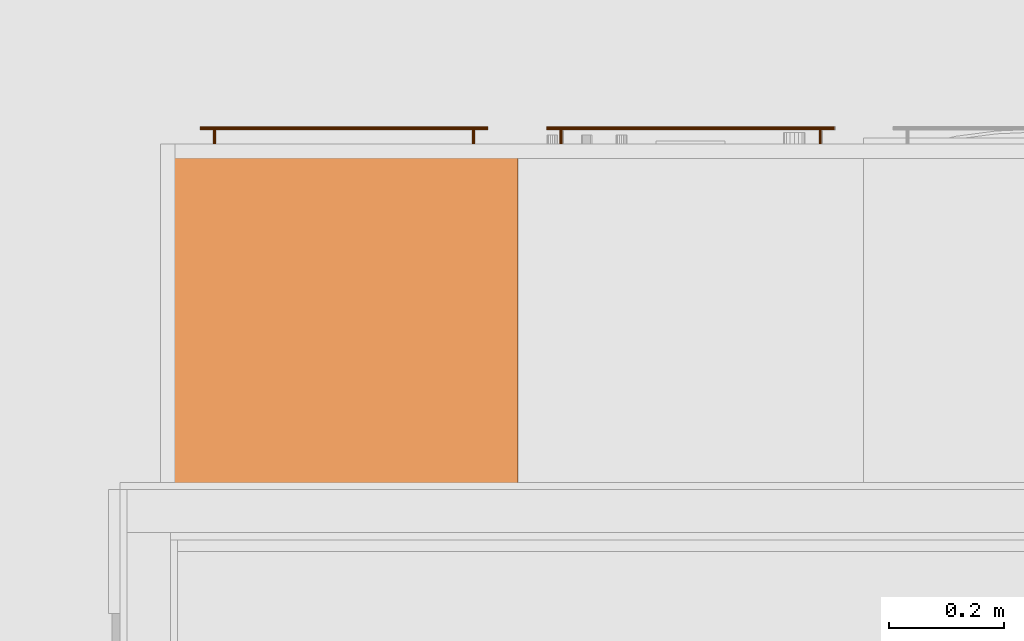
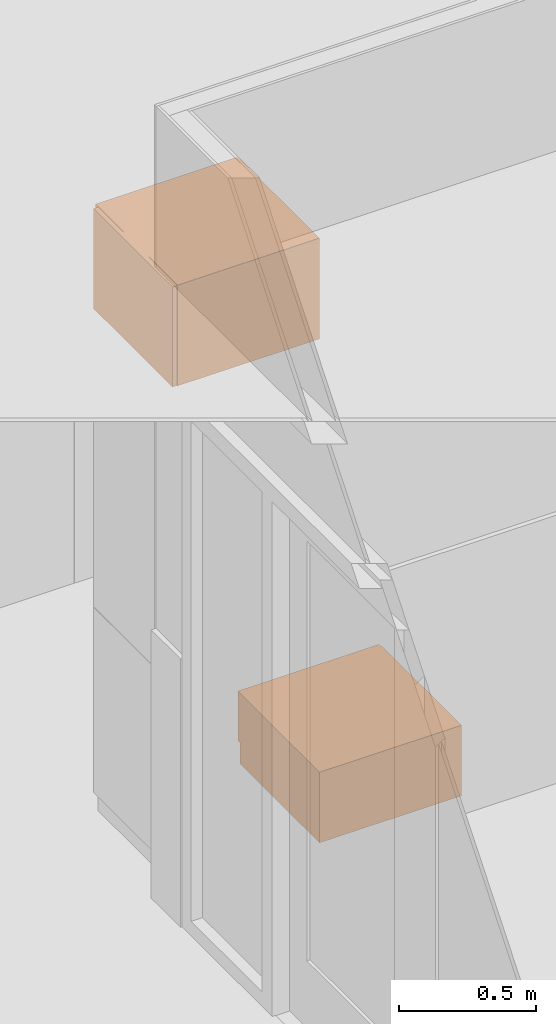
# One storey, part 164 of 167: 2 proxies.
"""IFC2X3 building model written with IfcOpenShell, lengths in millimetres."""

import ifcopenshell
import ifcopenshell.guid

model = None  # the IFC model being written
_history = None  # IfcOwnerHistory: only IFC2X3 demands one
_inside = {}  # id of a spatial element -> (the spatial element, [elements in it])
_under = {}  # id of a project, library or spatial element -> (it, [spatial elements below it])
_declared = {}  # id of a project -> (the project, [libraries it declares])
_typed = {}  # id of a type object -> (the type object, [elements of that type])
_made_of = {}  # id of a material, layer set ... -> (it, [elements and type objects made of it])


def new_model(schema):
    """Start an empty IFC model of exactly this schema.

    Asked for "IFC4X3", IfcOpenShell would pick the latest addendum, in which some entities
    have other attributes; the version numbers below select the first issue.
    IFC2X3 requires an IfcOwnerHistory on every rooted entity: one is made here for all.
    """
    global model, _history
    if schema == "IFC4X3":
        model = ifcopenshell.file(schema_version=(4, 3, 0, 0))
    else:
        model = ifcopenshell.file(schema=schema)
    _inside.clear()
    _under.clear()
    _declared.clear()
    _typed.clear()
    _made_of.clear()
    _history = None
    if model.schema == "IFC2X3":
        org = make("IfcOrganization", Name="unknown")
        user = make(
            "IfcPersonAndOrganization",
            ThePerson=make("IfcPerson", FamilyName="unknown"),
            TheOrganization=org,
        )
        app = make(
            "IfcApplication",
            ApplicationDeveloper=org,
            Version="unknown",
            ApplicationFullName="unknown",
            ApplicationIdentifier="unknown",
        )
        _history = make(
            "IfcOwnerHistory",
            OwningUser=user,
            OwningApplication=app,
            ChangeAction="ADDED",
            CreationDate=0,
        )
    return model


def make(cls, **values):
    """One entity of the class cls with the attributes given. An attribute that is None is left unset."""
    return model.create_entity(
        cls, **{name: value for name, value in values.items() if value is not None}
    )


def entity(cls, *values):
    """Any entity or typed value of the class cls, its attributes in the order of the schema. None: left unset."""
    e = model.create_entity(cls)
    for i, value in enumerate(values):
        if value is not None:
            e[i] = value
    return e


def rooted(cls, **values):
    """An entity with a GlobalId (a new one), such as an element, a storey or a relation."""
    return make(cls, GlobalId=ifcopenshell.guid.new(), OwnerHistory=_history, **values)


def si_unit(unit_type, name, prefix=None):
    """IfcSIUnit, for example si_unit("LENGTHUNIT", "METRE", prefix="MILLI")."""
    return make("IfcSIUnit", UnitType=unit_type, Prefix=prefix, Name=name)


def converted_unit(unit_type, name, factor, base, dimensions=None, offset=None):
    """IfcConversionBasedUnit, such as the inch: factor (a typed value) times the base unit."""
    return make(
        "IfcConversionBasedUnit"
        if offset is None
        else "IfcConversionBasedUnitWithOffset",
        ConversionOffset=offset,
        Dimensions=None
        if dimensions is None
        else entity("IfcDimensionalExponents", *dimensions),
        UnitType=unit_type,
        Name=name,
        ConversionFactor=make(
            "IfcMeasureWithUnit", ValueComponent=factor, UnitComponent=base
        ),
    )


def derived_unit(unit_type, elements):
    """IfcDerivedUnit: a product of units, each with its exponent."""
    return make(
        "IfcDerivedUnit",
        Elements=[
            make("IfcDerivedUnitElement", Unit=unit, Exponent=power)
            for unit, power in elements
        ],
        UnitType=unit_type,
    )


def money_unit(currency):
    """IfcMonetaryUnit."""
    return make("IfcMonetaryUnit", Currency=currency)


def assignment(units):
    """IfcUnitAssignment: the units of a project."""
    return None if units is None else make("IfcUnitAssignment", Units=units)


def point(xyz):
    """IfcCartesianPoint."""
    return None if xyz is None else make("IfcCartesianPoint", Coordinates=xyz)


def direction(xyz):
    """IfcDirection."""
    return None if xyz is None else make("IfcDirection", DirectionRatios=xyz)


def frame(location, z_axis=None, x_axis=None):
    """IfcAxis2Placement3D, a coordinate frame: its origin and axes. An axis left out is left unset."""
    return make(
        "IfcAxis2Placement3D",
        Location=point(location),
        Axis=direction(z_axis),
        RefDirection=direction(x_axis),
    )


def origin_with_axes():
    """The frame at (0, 0, 0) with the z axis (0, 0, 1) and the x axis (1, 0, 0) written out."""
    return frame((0.0, 0.0, 0.0), z_axis=(0.0, 0.0, 1.0), x_axis=(1.0, 0.0, 0.0))


def place(relative_to, where):
    """IfcLocalPlacement: puts the frame where relative to a parent placement (None: the world)."""
    return make(
        "IfcLocalPlacement", PlacementRelTo=relative_to, RelativePlacement=where
    )


def context(
    kind, dimensions, precision=None, world=None, true_north=None, identifier=None
):
    """IfcGeometricRepresentationContext, for example the 3D "Model" context."""
    return make(
        "IfcGeometricRepresentationContext",
        ContextIdentifier=identifier,
        ContextType=kind,
        CoordinateSpaceDimension=dimensions,
        Precision=precision,
        WorldCoordinateSystem=world,
        TrueNorth=true_north,
    )


def subcontext(parent, identifier, kind, view, scale=None):
    """IfcGeometricRepresentationSubContext, for example "Body" below "Model"."""
    return make(
        "IfcGeometricRepresentationSubContext",
        ContextIdentifier=identifier,
        ContextType=kind,
        ParentContext=parent,
        TargetScale=scale,
        TargetView=view,
    )


def project(units=None, contexts=None):
    """IfcProject with its units and contexts."""
    return rooted(
        "IfcProject",
        Name="project",
        RepresentationContexts=contexts,
        UnitsInContext=assignment(units),
    )


def spatial(cls, under=None, at=None, **own):
    """A site, building, storey or space (cls), placed at a placement, below another one or the project."""
    s = rooted(cls, ObjectPlacement=at, **own)
    if under is not None:
        _under.setdefault(under.id(), (under, []))[1].append(s)
    return s


def faces_of(points, faces, orient=None, outer=None):
    """IfcFace entities. A face is a list of loops; a loop is a list of indices into points, from 0.

    orient and outer hold one flag for each loop. By default every Orientation is true, the
    first loop of a face is its IfcFaceOuterBound and the others are IfcFaceBound.
    """
    made = []
    for i, loops in enumerate(faces):
        bounds = []
        for j, loop in enumerate(loops):
            is_outer = j == 0 if outer is None else outer[i][j]
            bounds.append(
                make(
                    "IfcFaceOuterBound" if is_outer else "IfcFaceBound",
                    Bound=make("IfcPolyLoop", Polygon=[points[k] for k in loop]),
                    Orientation=True if orient is None else orient[i][j],
                )
            )
        made.append(make("IfcFace", Bounds=bounds))
    return made


def open_shell(faces, orient=None, outer=None):
    """The faces of one IfcOpenShell. surface_model builds it on its shared points."""
    return ("IfcOpenShell", faces, orient, outer)


def faceted_brep(points, faces, orient=None, outer=None, voids=None):
    """IfcFacetedBrep: a solid bounded by flat faces; with voids (closed shells), ...WithVoids."""
    shared = [point(p) for p in points]
    hull = make("IfcClosedShell", CfsFaces=faces_of(shared, faces, orient, outer))
    if voids is None:
        return make("IfcFacetedBrep", Outer=hull)
    return make(
        "IfcFacetedBrepWithVoids",
        Outer=hull,
        Voids=[
            make(cls, CfsFaces=faces_of(shared, fs, o, b)) for cls, fs, o, b in voids
        ],
    )


def surface_model(cls, points, shells):
    """IfcFaceBasedSurfaceModel or IfcShellBasedSurfaceModel (cls): surfaces that need not close."""
    shared = [point(p) for p in points]
    made = [make(c, CfsFaces=faces_of(shared, fs, o, b)) for c, fs, o, b in shells]
    if cls == "IfcFaceBasedSurfaceModel":
        return make(cls, FbsmFaces=made)
    return make(cls, SbsmBoundary=made)


def shape(context_of_items, identifier, shape_type, items):
    """IfcShapeRepresentation: the items that make up one representation, for example the "Body"."""
    return make(
        "IfcShapeRepresentation",
        ContextOfItems=context_of_items,
        RepresentationIdentifier=identifier,
        RepresentationType=shape_type,
        Items=items,
    )


def made_of(thing, what):
    """Note that an element or type object is made of a material, layer set ...; save() writes the relation."""
    if what is not None:
        _made_of.setdefault(what.id(), (what, []))[1].append(thing)
    return thing


def type_object(cls, material=None, **own):
    """A type object (cls), such as IfcWallType, which elements share."""
    return made_of(rooted(cls, **own), material)


def element(
    cls,
    number,
    at=None,
    inside=None,
    cuts=None,
    type_object=None,
    material=None,
    context=None,
    identifier="Body",
    shape_type=None,
    held_by="IfcProductDefinitionShape",
    body=None,
    shapes=None,
    **own,
):
    """One element of the class cls, such as IfcWall. Its Tag is "e" and its number.

    at: its placement. inside: the storey or other place that contains it. cuts: it is an
    opening in that element (IfcRelVoidsElement). A single representation is given by context,
    identifier, shape_type and body (its items); several are given by shapes. held_by: the class
    of the entity that holds the representations. save() writes the other relations.
    """
    e = rooted(cls, Tag="e%d" % number, ObjectPlacement=at, **own)
    if body is not None:
        shapes = [shape(context, identifier, shape_type, body)]
    if shapes is not None:
        e.Representation = make(held_by, Representations=shapes)
    if inside is not None:
        _inside.setdefault(inside.id(), (inside, []))[1].append(e)
    if cuts is not None:
        rooted(
            "IfcRelVoidsElement", RelatingBuildingElement=cuts, RelatedOpeningElement=e
        )
    if type_object is not None:
        _typed.setdefault(type_object.id(), (type_object, []))[1].append(e)
    return made_of(e, material)


def aggregate(whole, parts):
    """IfcRelAggregates: a whole, such as a stair, and the parts it consists of."""
    return rooted("IfcRelAggregates", RelatingObject=whole, RelatedObjects=parts)


def save(model, path):
    """Write the relations noted so far, then the file.

    IfcRelAggregates (storeys below a building ...), IfcRelContainedInSpatialStructure (elements
    in a storey), IfcRelDefinesByType, IfcRelAssociatesMaterial and IfcRelDeclares: one each for
    every whole, place, type object, material and project.
    """
    for whole, parts in _under.values():
        aggregate(whole, parts)
    for where, things in _inside.values():
        rooted(
            "IfcRelContainedInSpatialStructure",
            RelatedElements=things,
            RelatingStructure=where,
        )
    for kind, things in _typed.values():
        rooted("IfcRelDefinesByType", RelatedObjects=things, RelatingType=kind)
    for what, things in _made_of.values():
        rooted("IfcRelAssociatesMaterial", RelatedObjects=things, RelatingMaterial=what)
    for by, libraries in _declared.values():
        rooted("IfcRelDeclares", RelatingContext=by, RelatedDefinitions=libraries)
    model.write(path)


model = new_model("IFC2X3")

# Units and contexts
model_context = context("Model", 3, precision=0.01, world=origin_with_axes(), true_north=direction((0.0, 1.0)))
plan_context = context("Plan", 3, precision=0.01, world=origin_with_axes(), true_north=direction((0.0, 1.0)))
body_context = subcontext(model_context, "Body", "Model", "MODEL_VIEW")
ifc_project = project(units=[si_unit("LENGTHUNIT", "METRE", prefix="MILLI"), si_unit("AREAUNIT", "SQUARE_METRE"), si_unit("VOLUMEUNIT", "CUBIC_METRE"), converted_unit("PLANEANGLEUNIT", "DEGREE", entity("IfcPlaneAngleMeasure", 0.0174532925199), si_unit("PLANEANGLEUNIT", "RADIAN"), dimensions=[0, 0, 0, 0, 0, 0, 0]), si_unit("SOLIDANGLEUNIT", "STERADIAN"), money_unit("EUR"), converted_unit("TIMEUNIT", "Year", entity("IfcTimeMeasure", 31556926.0), si_unit("TIMEUNIT", "SECOND"), dimensions=[0, 0, 1, 0, 0, 0, 0]), si_unit("MASSUNIT", "GRAM", prefix="KILO"), si_unit("THERMODYNAMICTEMPERATUREUNIT", "DEGREE_CELSIUS"), si_unit("LUMINOUSINTENSITYUNIT", "LUMEN"), si_unit("ENERGYUNIT", "JOULE", prefix="MEGA"), derived_unit("THERMALCONDUCTANCEUNIT", [(si_unit("POWERUNIT", "WATT"), 1), (si_unit("LENGTHUNIT", "METRE"), -1), (si_unit("THERMODYNAMICTEMPERATUREUNIT", "KELVIN"), -1)]), derived_unit("SPECIFICHEATCAPACITYUNIT", [(si_unit("ENERGYUNIT", "JOULE"), 1), (si_unit("MASSUNIT", "GRAM", prefix="KILO"), -1), (si_unit("THERMODYNAMICTEMPERATUREUNIT", "KELVIN"), -1)]), derived_unit("MASSDENSITYUNIT", [(si_unit("MASSUNIT", "GRAM", prefix="KILO"), 1), (si_unit("VOLUMEUNIT", "CUBIC_METRE"), -1)])], contexts=[model_context, plan_context])

# Site, building, storey
site_placement = place(None, origin_with_axes())
site = spatial("IfcSite", under=ifc_project, at=site_placement, Name="Site", CompositionType="ELEMENT")
building_placement = place(site_placement, origin_with_axes())
building = spatial("IfcBuilding", under=site, at=building_placement, Name="Naam gebouw", CompositionType="ELEMENT")
storey_placement = place(building_placement, origin_with_axes())
storey = spatial("IfcBuildingStorey", under=building, at=storey_placement, Name="Begane grond", CompositionType="ELEMENT", Elevation=0.0)

# Proxies
building_element_proxy_type_1 = type_object("IfcBuildingElementProxyType", Name="Kast basis multilade 24", PredefinedType="NOTDEFINED")
proxy_1_placement = place(storey_placement, frame((26625.0, 24566.7322881, 0.0), z_axis=(0.0, 0.0, 1.0), x_axis=(-1.0, 0.0, 0.0)))
element("IfcBuildingElementProxy", 1, at=proxy_1_placement, inside=storey, type_object=building_element_proxy_type_1, Name="__Object-x", context=body_context, shape_type="SurfaceModel", body=[
    faceted_brep([(1.5, 20.0, 91.5), (598.5, 20.0, 91.5), (598.5, 0.0, 91.5), (1.5, 0.0, 91.5), (1.5, 20.0, 313.5), (598.5, 20.0, 313.5), (598.5, 0.0, 313.5), (1.5, 0.0, 313.5)], [[[0, 1, 2, 3]], [[0, 4, 5, 1]], [[1, 5, 6, 2]], [[3, 2, 6, 7]], [[4, 0, 3, 7]], [[5, 4, 7, 6]]]),
    faceted_brep([(50.0, -28.1480502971, 247.228361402), (50.0, -29.1213203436, 247.878679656), (50.0, -29.7716385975, 248.851949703), (50.0, -30.0, 250.0), (50.0, -29.7716385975, 251.148050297), (50.0, -29.1213203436, 252.121320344), (50.0, -28.1480502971, 252.771638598), (50.0, -27.0, 253.0), (50.0, -25.8519497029, 252.771638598), (50.0, -24.8786796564, 252.121320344), (50.0, -24.2283614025, 251.148050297), (50.0, -24.0, 250.0), (50.0, -24.2283614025, 248.851949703), (50.0, -24.8786796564, 247.878679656), (50.0, -25.8519497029, 247.228361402), (50.0, -27.0, 247.0), (550.0, -28.1480502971, 247.228361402), (550.0, -29.1213203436, 247.878679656), (550.0, -29.7716385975, 248.851949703), (550.0, -30.0, 250.0), (550.0, -29.7716385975, 251.148050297), (550.0, -29.1213203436, 252.121320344), (550.0, -28.1480502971, 252.771638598), (550.0, -27.0, 253.0), (550.0, -25.8519497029, 252.771638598), (550.0, -24.8786796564, 252.121320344), (550.0, -24.2283614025, 251.148050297), (550.0, -24.0, 250.0), (550.0, -24.2283614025, 248.851949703), (550.0, -24.8786796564, 247.878679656), (550.0, -25.8519497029, 247.228361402), (550.0, -27.0, 247.0)], [[[0, 1, 2, 3, 4, 5, 6, 7, 8, 9, 10, 11, 12, 13, 14, 15]], [[1, 0, 16, 17]], [[2, 1, 17, 18]], [[3, 2, 18, 19]], [[4, 3, 19, 20]], [[5, 4, 20, 21]], [[6, 5, 21, 22]], [[7, 6, 22, 23]], [[8, 7, 23, 24]], [[9, 8, 24, 25]], [[10, 9, 25, 26]], [[11, 10, 26, 27]], [[12, 11, 27, 28]], [[13, 12, 28, 29]], [[14, 13, 29, 30]], [[15, 14, 30, 31]], [[0, 15, 31, 16]], [[16, 31, 30, 29, 28, 27, 26, 25, 24, 23, 22, 21, 20, 19, 18, 17]]]),
    surface_model("IfcShellBasedSurfaceModel", [(72.6903011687, -24.156637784, 249.043291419), (72.5, -24.0, 250.0), (72.5, 0.0, 250.0), (72.6903011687, 0.0, 249.043291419), (72.6903011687, -24.156637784, 250.956708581), (72.6903011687, 0.0, 250.956708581), (73.232233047, 0.0, 251.767766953), (74.0432914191, 0.0, 252.309698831), (75.0, 0.0, 252.5), (75.9567085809, 0.0, 252.309698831), (76.767766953, 0.0, 251.767766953), (77.3096988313, 0.0, 250.956708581), (77.5, 0.0, 250.0), (77.3096988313, 0.0, 249.043291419), (76.767766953, 0.0, 248.232233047), (75.9567085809, 0.0, 247.690301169), (75.0, 0.0, 247.5), (74.0432914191, 0.0, 247.690301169), (73.232233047, 0.0, 248.232233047), (73.232233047, -24.5761600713, 248.232233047), (73.232233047, -24.5761600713, 251.767766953), (74.0432914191, -25.0855049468, 252.309698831), (75.0, -25.3416876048, 252.5), (75.9567085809, -25.0855049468, 252.309698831), (76.767766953, -24.5761600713, 251.767766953), (77.3096988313, -24.156637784, 250.956708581), (77.5, -24.0, 250.0), (77.3096988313, -24.156637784, 249.043291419), (76.767766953, -24.5761600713, 248.232233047), (75.9567085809, -25.0855049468, 247.690301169), (75.0, -25.3416876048, 247.5), (74.0432914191, -25.0855049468, 247.690301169)], [open_shell([[[0, 1, 2, 3]], [[1, 4, 5, 2]], [[3, 2, 5, 6, 7, 8, 9, 10, 11, 12, 13, 14, 15, 16, 17, 18]], [[19, 0, 3, 18]], [[4, 20, 6, 5]], [[20, 21, 7, 6]], [[21, 22, 8, 7]], [[22, 23, 9, 8]], [[23, 24, 10, 9]], [[24, 25, 11, 10]], [[25, 26, 12, 11]], [[26, 27, 13, 12]], [[27, 28, 14, 13]], [[28, 29, 15, 14]], [[29, 30, 16, 15]], [[30, 31, 17, 16]], [[31, 19, 18, 17]]])]),
    surface_model("IfcShellBasedSurfaceModel", [(522.690301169, -24.156637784, 249.043291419), (522.5, -24.0, 250.0), (522.5, 0.0, 250.0), (522.690301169, 0.0, 249.043291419), (522.690301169, -24.156637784, 250.956708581), (522.690301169, 0.0, 250.956708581), (523.232233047, 0.0, 251.767766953), (524.043291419, 0.0, 252.309698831), (525.0, 0.0, 252.5), (525.956708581, 0.0, 252.309698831), (526.767766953, 0.0, 251.767766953), (527.309698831, 0.0, 250.956708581), (527.5, 0.0, 250.0), (527.309698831, 0.0, 249.043291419), (526.767766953, 0.0, 248.232233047), (525.956708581, 0.0, 247.690301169), (525.0, 0.0, 247.5), (524.043291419, 0.0, 247.690301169), (523.232233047, 0.0, 248.232233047), (523.232233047, -24.5761600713, 248.232233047), (523.232233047, -24.5761600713, 251.767766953), (524.043291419, -25.0855049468, 252.309698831), (525.0, -25.3416876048, 252.5), (525.956708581, -25.0855049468, 252.309698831), (526.767766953, -24.5761600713, 251.767766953), (527.309698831, -24.156637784, 250.956708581), (527.5, -24.0, 250.0), (527.309698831, -24.156637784, 249.043291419), (526.767766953, -24.5761600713, 248.232233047), (525.956708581, -25.0855049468, 247.690301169), (525.0, -25.3416876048, 247.5), (524.043291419, -25.0855049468, 247.690301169)], [open_shell([[[0, 1, 2, 3]], [[1, 4, 5, 2]], [[3, 2, 5, 6, 7, 8, 9, 10, 11, 12, 13, 14, 15, 16, 17, 18]], [[19, 0, 3, 18]], [[4, 20, 6, 5]], [[20, 21, 7, 6]], [[21, 22, 8, 7]], [[22, 23, 9, 8]], [[23, 24, 10, 9]], [[24, 25, 11, 10]], [[25, 26, 12, 11]], [[26, 27, 13, 12]], [[27, 28, 14, 13]], [[28, 29, 15, 14]], [[29, 30, 16, 15]], [[30, 31, 17, 16]], [[31, 19, 18, 17]]])]),
    faceted_brep([(0.0, 20.0, 0.0), (600.0, 20.0, 0.0), (600.0, 20.0, 90.0), (0.0, 20.0, 90.0), (0.0, 600.0, 0.0), (600.0, 600.0, 0.0), (600.0, 600.0, 90.0), (0.0, 600.0, 90.0)], [[[0, 1, 2, 3]], [[0, 4, 5, 1]], [[1, 5, 6, 2]], [[3, 2, 6, 7]], [[4, 0, 3, 7]], [[5, 4, 7, 6]]]),
    faceted_brep([(0.0, 20.0, 295.0), (20.0, 20.0, 295.0), (20.0, 20.0, 315.0), (0.0, 20.0, 315.0), (0.0, 600.0, 295.0), (20.0, 600.0, 295.0), (580.0, 600.0, 295.0), (600.0, 600.0, 295.0), (600.0, 20.0, 295.0), (580.0, 20.0, 295.0), (580.0, 20.0, 315.0), (600.0, 20.0, 315.0), (600.0, 600.0, 315.0), (580.0, 600.0, 315.0), (20.0, 600.0, 315.0), (0.0, 600.0, 315.0)], [[[0, 1, 2, 3]], [[0, 4, 5, 6, 7, 8, 9, 1]], [[1, 9, 10, 2]], [[3, 2, 10, 11, 12, 13, 14, 15]], [[4, 0, 3, 15]], [[5, 4, 15, 14]], [[6, 5, 14, 13]], [[7, 6, 13, 12]], [[8, 7, 12, 11]], [[9, 8, 11, 10]]]),
    faceted_brep([(0.0, 20.0, 90.0), (20.0, 20.0, 90.0), (20.0, 20.0, 110.0), (0.0, 20.0, 110.0), (0.0, 600.0, 90.0), (20.0, 600.0, 90.0), (580.0, 600.0, 90.0), (600.0, 600.0, 90.0), (600.0, 20.0, 90.0), (580.0, 20.0, 90.0), (580.0, 20.0, 110.0), (600.0, 20.0, 110.0), (600.0, 600.0, 110.0), (580.0, 600.0, 110.0), (20.0, 600.0, 110.0), (0.0, 600.0, 110.0)], [[[0, 1, 2, 3]], [[0, 4, 5, 6, 7, 8, 9, 1]], [[1, 9, 10, 2]], [[3, 2, 10, 11, 12, 13, 14, 15]], [[4, 0, 3, 15]], [[5, 4, 15, 14]], [[6, 5, 14, 13]], [[7, 6, 13, 12]], [[8, 7, 12, 11]], [[9, 8, 11, 10]]]),
    faceted_brep([(0.0, 20.0, 110.0), (20.0, 20.0, 110.0), (20.0, 20.0, 295.0), (0.0, 20.0, 295.0), (0.0, 600.0, 110.0), (600.0, 600.0, 110.0), (600.0, 20.0, 110.0), (580.0, 20.0, 110.0), (580.0, 580.0, 110.0), (20.0, 580.0, 110.0), (20.0, 580.0, 295.0), (580.0, 580.0, 295.0), (580.0, 20.0, 295.0), (600.0, 20.0, 295.0), (600.0, 600.0, 295.0), (0.0, 600.0, 295.0)], [[[0, 1, 2, 3]], [[0, 4, 5, 6, 7, 8, 9, 1]], [[1, 9, 10, 2]], [[3, 2, 10, 11, 12, 13, 14, 15]], [[4, 0, 3, 15]], [[5, 4, 15, 14]], [[6, 5, 14, 13]], [[7, 6, 13, 12]], [[8, 7, 12, 11]], [[9, 8, 11, 10]]]),
])
building_element_proxy_type_2 = type_object("IfcBuildingElementProxyType", Name="Kast wand 1D 24", PredefinedType="NOTDEFINED")
proxy_2_placement = place(storey_placement, frame((25405.0, 24566.7322881, 750.0), z_axis=(0.0, 0.0, 1.0), x_axis=(-1.0, 0.0, 0.0)))
element("IfcBuildingElementProxy", 2, at=proxy_2_placement, inside=storey, type_object=building_element_proxy_type_2, Name="__Object-x", context=body_context, shape_type="SurfaceModel", body=[
    faceted_brep([(-20.0, 20.0, 1930.0), (-20.0, 20.0, 1950.0), (-40.0, 20.0, 1950.0), (-40.0, 20.0, 1930.0), (-20.0, 600.0, 1930.0), (-20.0, 600.0, 1950.0), (-40.0, 600.0, 1950.0), (-600.0, 600.0, 1950.0), (-620.0, 600.0, 1950.0), (-620.0, 20.0, 1950.0), (-600.0, 20.0, 1950.0), (-600.0, 20.0, 1930.0), (-620.0, 20.0, 1930.0), (-620.0, 600.0, 1930.0), (-600.0, 600.0, 1930.0), (-40.0, 600.0, 1930.0)], [[[0, 1, 2, 3]], [[4, 5, 1, 0]], [[1, 5, 6, 7, 8, 9, 10, 2]], [[3, 2, 10, 11]], [[0, 3, 11, 12, 13, 14, 15, 4]], [[15, 6, 5, 4]], [[14, 7, 6, 15]], [[13, 8, 7, 14]], [[12, 9, 8, 13]], [[11, 10, 9, 12]]]),
    faceted_brep([(-20.0, 20.0, 1500.0), (-20.0, 20.0, 1520.0), (-40.0, 20.0, 1520.0), (-40.0, 20.0, 1500.0), (-20.0, 600.0, 1500.0), (-20.0, 600.0, 1520.0), (-40.0, 600.0, 1520.0), (-600.0, 600.0, 1520.0), (-620.0, 600.0, 1520.0), (-620.0, 20.0, 1520.0), (-600.0, 20.0, 1520.0), (-600.0, 20.0, 1500.0), (-620.0, 20.0, 1500.0), (-620.0, 600.0, 1500.0), (-600.0, 600.0, 1500.0), (-40.0, 600.0, 1500.0)], [[[0, 1, 2, 3]], [[4, 5, 1, 0]], [[1, 5, 6, 7, 8, 9, 10, 2]], [[3, 2, 10, 11]], [[0, 3, 11, 12, 13, 14, 15, 4]], [[15, 6, 5, 4]], [[14, 7, 6, 15]], [[13, 8, 7, 14]], [[12, 9, 8, 13]], [[11, 10, 9, 12]]]),
    faceted_brep([(-20.0, 20.0, 1520.0), (-20.0, 20.0, 1930.0), (-40.0, 20.0, 1930.0), (-40.0, 20.0, 1520.0), (-20.0, 600.0, 1520.0), (-20.0, 600.0, 1930.0), (-620.0, 600.0, 1930.0), (-620.0, 20.0, 1930.0), (-600.0, 20.0, 1930.0), (-600.0, 580.0, 1930.0), (-40.0, 580.0, 1930.0), (-40.0, 580.0, 1520.0), (-600.0, 580.0, 1520.0), (-600.0, 20.0, 1520.0), (-620.0, 20.0, 1520.0), (-620.0, 600.0, 1520.0)], [[[0, 1, 2, 3]], [[4, 5, 1, 0]], [[1, 5, 6, 7, 8, 9, 10, 2]], [[3, 2, 10, 11]], [[0, 3, 11, 12, 13, 14, 15, 4]], [[15, 6, 5, 4]], [[14, 7, 6, 15]], [[13, 8, 7, 14]], [[12, 9, 8, 13]], [[11, 10, 9, 12]]]),
    faceted_brep([(-600.0, 20.0, 1630.0), (-600.0, 20.0, 1650.0), (-600.0, 580.0, 1650.0), (-600.0, 580.0, 1630.0), (-40.0, 20.0, 1630.0), (-40.0, 20.0, 1650.0), (-40.0, 580.0, 1650.0), (-40.0, 580.0, 1630.0)], [[[0, 1, 2, 3]], [[4, 5, 1, 0]], [[1, 5, 6, 2]], [[3, 2, 6, 7]], [[0, 3, 7, 4]], [[7, 6, 5, 4]]]),
    faceted_brep([(-600.0, 20.0, 1780.0), (-600.0, 20.0, 1800.0), (-600.0, 580.0, 1800.0), (-600.0, 580.0, 1780.0), (-40.0, 20.0, 1780.0), (-40.0, 20.0, 1800.0), (-40.0, 580.0, 1800.0), (-40.0, 580.0, 1780.0)], [[[0, 1, 2, 3]], [[4, 5, 1, 0]], [[1, 5, 6, 2]], [[3, 2, 6, 7]], [[0, 3, 7, 4]], [[7, 6, 5, 4]]]),
    faceted_brep([(-21.5, 20.0, 1501.5), (-21.5, 0.0, 1501.5), (-618.5, 0.0, 1501.5), (-618.5, 20.0, 1501.5), (-21.5, 20.0, 1948.5), (-21.5, 0.0, 1948.5), (-618.5, 0.0, 1948.5), (-618.5, 20.0, 1948.5)], [[[0, 1, 2, 3]], [[4, 5, 1, 0]], [[1, 5, 6, 2]], [[3, 2, 6, 7]], [[0, 3, 7, 4]], [[7, 6, 5, 4]]]),
    faceted_brep([(-68.5, -28.1480502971, 1548.7283614), (-68.5, -27.0, 1548.5), (-68.5, -25.8519497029, 1548.7283614), (-68.5, -24.8786796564, 1549.37867966), (-68.5, -24.2283614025, 1550.3519497), (-68.5, -24.0, 1551.5), (-68.5, -24.2283614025, 1552.6480503), (-68.5, -24.8786796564, 1553.62132034), (-68.5, -25.8519497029, 1554.2716386), (-68.5, -27.0, 1554.5), (-68.5, -28.1480502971, 1554.2716386), (-68.5, -29.1213203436, 1553.62132034), (-68.5, -29.7716385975, 1552.6480503), (-68.5, -30.0, 1551.5), (-68.5, -29.7716385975, 1550.3519497), (-68.5, -29.1213203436, 1549.37867966), (-568.5, -28.1480502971, 1548.7283614), (-568.5, -27.0, 1548.5), (-568.5, -25.8519497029, 1548.7283614), (-568.5, -24.8786796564, 1549.37867966), (-568.5, -24.2283614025, 1550.3519497), (-568.5, -24.0, 1551.5), (-568.5, -24.2283614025, 1552.6480503), (-568.5, -24.8786796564, 1553.62132034), (-568.5, -25.8519497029, 1554.2716386), (-568.5, -27.0, 1554.5), (-568.5, -28.1480502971, 1554.2716386), (-568.5, -29.1213203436, 1553.62132034), (-568.5, -29.7716385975, 1552.6480503), (-568.5, -30.0, 1551.5), (-568.5, -29.7716385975, 1550.3519497), (-568.5, -29.1213203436, 1549.37867966)], [[[0, 1, 2, 3, 4, 5, 6, 7, 8, 9, 10, 11, 12, 13, 14, 15]], [[0, 16, 17, 1]], [[1, 17, 18, 2]], [[2, 18, 19, 3]], [[3, 19, 20, 4]], [[4, 20, 21, 5]], [[5, 21, 22, 6]], [[6, 22, 23, 7]], [[7, 23, 24, 8]], [[8, 24, 25, 9]], [[9, 25, 26, 10]], [[10, 26, 27, 11]], [[11, 27, 28, 12]], [[12, 28, 29, 13]], [[13, 29, 30, 14]], [[14, 30, 31, 15]], [[15, 31, 16, 0]], [[16, 31, 30, 29, 28, 27, 26, 25, 24, 23, 22, 21, 20, 19, 18, 17]]]),
    surface_model("IfcShellBasedSurfaceModel", [(-91.1903011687, -24.156637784, 1550.54329142), (-91.1903011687, 0.0, 1550.54329142), (-91.0, 0.0, 1551.5), (-91.0, -24.0, 1551.5), (-91.732233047, -24.5761600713, 1549.73223305), (-91.732233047, 0.0, 1549.73223305), (-92.5432914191, 0.0, 1549.19030117), (-93.5, 0.0, 1549.0), (-94.4567085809, 0.0, 1549.19030117), (-95.267766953, 0.0, 1549.73223305), (-95.8096988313, 0.0, 1550.54329142), (-96.0, 0.0, 1551.5), (-95.8096988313, 0.0, 1552.45670858), (-95.267766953, 0.0, 1553.26776695), (-94.4567085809, 0.0, 1553.80969883), (-93.5, 0.0, 1554.0), (-92.5432914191, 0.0, 1553.80969883), (-91.732233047, 0.0, 1553.26776695), (-91.1903011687, 0.0, 1552.45670858), (-91.1903011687, -24.156637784, 1552.45670858), (-92.5432914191, -25.0855049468, 1549.19030117), (-93.5, -25.3416876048, 1549.0), (-94.4567085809, -25.0855049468, 1549.19030117), (-95.267766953, -24.5761600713, 1549.73223305), (-95.8096988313, -24.156637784, 1550.54329142), (-96.0, -24.0, 1551.5), (-95.8096988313, -24.156637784, 1552.45670858), (-95.267766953, -24.5761600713, 1553.26776695), (-94.4567085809, -25.0855049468, 1553.80969883), (-93.5, -25.3416876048, 1554.0), (-92.5432914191, -25.0855049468, 1553.80969883), (-91.732233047, -24.5761600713, 1553.26776695)], [open_shell([[[0, 1, 2, 3]], [[4, 5, 1, 0]], [[1, 5, 6, 7, 8, 9, 10, 11, 12, 13, 14, 15, 16, 17, 18, 2]], [[3, 2, 18, 19]], [[20, 6, 5, 4]], [[21, 7, 6, 20]], [[22, 8, 7, 21]], [[23, 9, 8, 22]], [[24, 10, 9, 23]], [[25, 11, 10, 24]], [[26, 12, 11, 25]], [[27, 13, 12, 26]], [[28, 14, 13, 27]], [[29, 15, 14, 28]], [[30, 16, 15, 29]], [[31, 17, 16, 30]], [[19, 18, 17, 31]]])]),
    surface_model("IfcShellBasedSurfaceModel", [(-541.190301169, -24.156637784, 1550.54329142), (-541.190301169, 0.0, 1550.54329142), (-541.0, 0.0, 1551.5), (-541.0, -24.0, 1551.5), (-541.732233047, -24.5761600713, 1549.73223305), (-541.732233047, 0.0, 1549.73223305), (-542.543291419, 0.0, 1549.19030117), (-543.5, 0.0, 1549.0), (-544.456708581, 0.0, 1549.19030117), (-545.267766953, 0.0, 1549.73223305), (-545.809698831, 0.0, 1550.54329142), (-546.0, 0.0, 1551.5), (-545.809698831, 0.0, 1552.45670858), (-545.267766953, 0.0, 1553.26776695), (-544.456708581, 0.0, 1553.80969883), (-543.5, 0.0, 1554.0), (-542.543291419, 0.0, 1553.80969883), (-541.732233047, 0.0, 1553.26776695), (-541.190301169, 0.0, 1552.45670858), (-541.190301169, -24.156637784, 1552.45670858), (-542.543291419, -25.0855049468, 1549.19030117), (-543.5, -25.3416876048, 1549.0), (-544.456708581, -25.0855049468, 1549.19030117), (-545.267766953, -24.5761600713, 1549.73223305), (-545.809698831, -24.156637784, 1550.54329142), (-546.0, -24.0, 1551.5), (-545.809698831, -24.156637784, 1552.45670858), (-545.267766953, -24.5761600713, 1553.26776695), (-544.456708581, -25.0855049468, 1553.80969883), (-543.5, -25.3416876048, 1554.0), (-542.543291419, -25.0855049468, 1553.80969883), (-541.732233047, -24.5761600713, 1553.26776695)], [open_shell([[[0, 1, 2, 3]], [[4, 5, 1, 0]], [[1, 5, 6, 7, 8, 9, 10, 11, 12, 13, 14, 15, 16, 17, 18, 2]], [[3, 2, 18, 19]], [[20, 6, 5, 4]], [[21, 7, 6, 20]], [[22, 8, 7, 21]], [[23, 9, 8, 22]], [[24, 10, 9, 23]], [[25, 11, 10, 24]], [[26, 12, 11, 25]], [[27, 13, 12, 26]], [[28, 14, 13, 27]], [[29, 15, 14, 28]], [[30, 16, 15, 29]], [[31, 17, 16, 30]], [[19, 18, 17, 31]]])]),
    faceted_brep([(-20.0, 598.5, 1501.5), (0.0, 598.5, 1501.5), (0.0, 21.5, 1501.5), (-20.0, 21.5, 1501.5), (-20.0, 598.5, 1948.5), (0.0, 598.5, 1948.5), (0.0, 21.5, 1948.5), (-20.0, 21.5, 1948.5)], [[[0, 1, 2, 3]], [[4, 5, 1, 0]], [[1, 5, 6, 2]], [[3, 2, 6, 7]], [[0, 3, 7, 4]], [[7, 6, 5, 4]]]),
])

save(model, "model.ifc")
